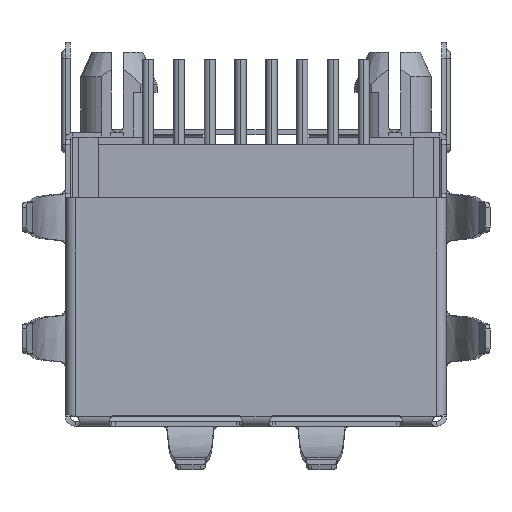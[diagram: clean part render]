
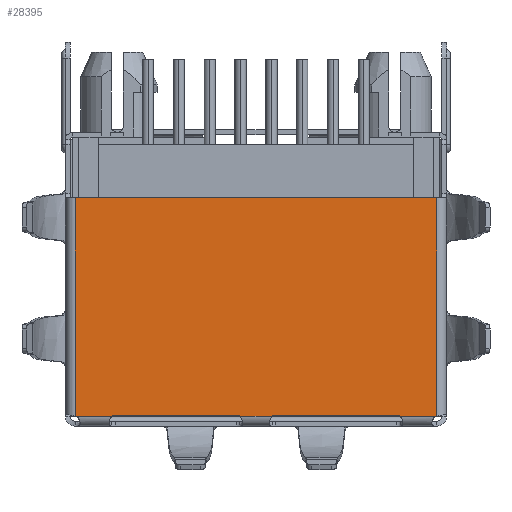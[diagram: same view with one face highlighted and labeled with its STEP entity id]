
A CAD part, front view. The second image highlights one B-rep face of the part: STEP entity #28395.
In plain terms, the highlighted planar face has unit normal (0, -1, 0) as drawn and (-1, 0, 0) by its records, which use the part's own axes.
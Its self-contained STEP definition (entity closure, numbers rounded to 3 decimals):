
#19613=DIRECTION('',(0.,0.,-1.));
#19614=VECTOR('',#19613,1.51);
#19615=CARTESIAN_POINT('',(-18.4,11.4,-5.94));
#19616=LINE('',#19615,#19614);
#19658=DIRECTION('',(0.,0.,-1.));
#19659=VECTOR('',#19658,1.51);
#19660=CARTESIAN_POINT('',(-18.4,11.4,7.45));
#19661=LINE('',#19660,#19659);
#19671=DIRECTION('',(0.,0.,-1.));
#19672=VECTOR('',#19671,1.32);
#19673=CARTESIAN_POINT('',(-18.4,11.4,0.66));
#19674=LINE('',#19673,#19672);
#19712=DIRECTION('',(0.,0.,1.));
#19713=VECTOR('',#19712,5.);
#19714=CARTESIAN_POINT('',(-18.4,11.357,0.8));
#19715=LINE('',#19714,#19713);
#19716=CARTESIAN_POINT('',(-18.4,11.607,5.8));
#19717=DIRECTION('',(1.,0.,0.));
#19718=DIRECTION('',(0.,-0.828,0.56));
#19719=AXIS2_PLACEMENT_3D('',#19716,#19717,#19718);
#19721=DIRECTION('',(0.,0.,1.));
#19722=VECTOR('',#19721,14.9);
#19723=CARTESIAN_POINT('',(-18.4,2.4,-7.45));
#19724=LINE('',#19723,#19722);
#19725=CARTESIAN_POINT('',(-18.4,11.607,-5.8));
#19726=DIRECTION('',(-1.,0.,0.));
#19727=DIRECTION('',(0.,-0.828,-0.56));
#19728=AXIS2_PLACEMENT_3D('',#19725,#19726,#19727);
#19730=DIRECTION('',(0.,0.,-1.));
#19731=VECTOR('',#19730,5.);
#19732=CARTESIAN_POINT('',(-18.4,11.357,-0.8));
#19733=LINE('',#19732,#19731);
#19734=CARTESIAN_POINT('',(-18.4,11.607,-0.8));
#19735=DIRECTION('',(-1.,0.,0.));
#19736=DIRECTION('',(0.,-1.,0.));
#19737=AXIS2_PLACEMENT_3D('',#19734,#19735,#19736);
#19739=CARTESIAN_POINT('',(-18.4,11.607,0.8));
#19740=DIRECTION('',(1.,0.,0.));
#19741=DIRECTION('',(0.,-1.,0.));
#19742=AXIS2_PLACEMENT_3D('',#19739,#19740,#19741);
#19909=DIRECTION('',(0.,1.,0.));
#19910=VECTOR('',#19909,9.);
#19911=CARTESIAN_POINT('',(-18.4,2.4,-7.45));
#19912=LINE('',#19911,#19910);
#19991=DIRECTION('',(0.,1.,0.));
#19992=VECTOR('',#19991,9.);
#19993=CARTESIAN_POINT('',(-18.4,2.4,7.45));
#19994=LINE('',#19993,#19992);
#23049=CARTESIAN_POINT('',(-18.4,2.4,-7.45));
#23050=CARTESIAN_POINT('',(-18.4,2.4,7.45));
#23051=VERTEX_POINT('',#23049);
#23052=VERTEX_POINT('',#23050);
#23777=CARTESIAN_POINT('',(-18.4,11.357,-0.8));
#23778=CARTESIAN_POINT('',(-18.4,11.357,-5.8));
#23779=VERTEX_POINT('',#23777);
#23780=VERTEX_POINT('',#23778);
#23781=CARTESIAN_POINT('',(-18.4,11.4,-5.94));
#23782=VERTEX_POINT('',#23781);
#23783=CARTESIAN_POINT('',(-18.4,11.4,-0.66));
#23784=VERTEX_POINT('',#23783);
#23801=CARTESIAN_POINT('',(-18.4,11.4,-7.45));
#23802=VERTEX_POINT('',#23801);
#23829=CARTESIAN_POINT('',(-18.4,11.4,7.45));
#23830=VERTEX_POINT('',#23829);
#23865=CARTESIAN_POINT('',(-18.4,11.357,0.8));
#23866=CARTESIAN_POINT('',(-18.4,11.357,5.8));
#23867=VERTEX_POINT('',#23865);
#23868=VERTEX_POINT('',#23866);
#23869=CARTESIAN_POINT('',(-18.4,11.4,5.94));
#23870=VERTEX_POINT('',#23869);
#23871=CARTESIAN_POINT('',(-18.4,11.4,0.66));
#23872=VERTEX_POINT('',#23871);
#28368=CARTESIAN_POINT('',(-18.4,11.8,-7.45));
#28369=DIRECTION('',(-1.,0.,0.));
#28370=DIRECTION('',(0.,0.,-1.));
#28371=AXIS2_PLACEMENT_3D('',#28368,#28369,#28370);
#28372=PLANE('',#28371);
#28374=ORIENTED_EDGE('',*,*,#28373,.T.);
#28376=ORIENTED_EDGE('',*,*,#28375,.F.);
#28377=ORIENTED_EDGE('',*,*,#28201,.F.);
#28379=ORIENTED_EDGE('',*,*,#28378,.F.);
#28381=ORIENTED_EDGE('',*,*,#28380,.F.);
#28383=ORIENTED_EDGE('',*,*,#28382,.T.);
#28384=ORIENTED_EDGE('',*,*,#28184,.F.);
#28386=ORIENTED_EDGE('',*,*,#28385,.T.);
#28388=ORIENTED_EDGE('',*,*,#28387,.F.);
#28389=ORIENTED_EDGE('',*,*,#28358,.T.);
#28390=ORIENTED_EDGE('',*,*,#28213,.F.);
#28392=ORIENTED_EDGE('',*,*,#28391,.F.);
#28393=EDGE_LOOP('',(#28374,#28376,#28377,#28379,#28381,#28383,#28384,#28386,
#28388,#28389,#28390,#28392));
#28394=FACE_OUTER_BOUND('',#28393,.F.);
#28395=ADVANCED_FACE('',(#28394),#28372,.T.);
#19720=CIRCLE('',#19719,0.25);
#19729=CIRCLE('',#19728,0.25);
#19738=CIRCLE('',#19737,0.25);
#19743=CIRCLE('',#19742,0.25);
#28184=EDGE_CURVE('',#23782,#23802,#19616,.T.);
#28201=EDGE_CURVE('',#23830,#23870,#19661,.T.);
#28213=EDGE_CURVE('',#23872,#23784,#19674,.T.);
#28358=EDGE_CURVE('',#23779,#23784,#19738,.T.);
#28373=EDGE_CURVE('',#23867,#23868,#19715,.T.);
#28375=EDGE_CURVE('',#23870,#23868,#19720,.T.);
#28378=EDGE_CURVE('',#23052,#23830,#19994,.T.);
#28380=EDGE_CURVE('',#23051,#23052,#19724,.T.);
#28382=EDGE_CURVE('',#23051,#23802,#19912,.T.);
#28385=EDGE_CURVE('',#23782,#23780,#19729,.T.);
#28387=EDGE_CURVE('',#23779,#23780,#19733,.T.);
#28391=EDGE_CURVE('',#23867,#23872,#19743,.T.);
